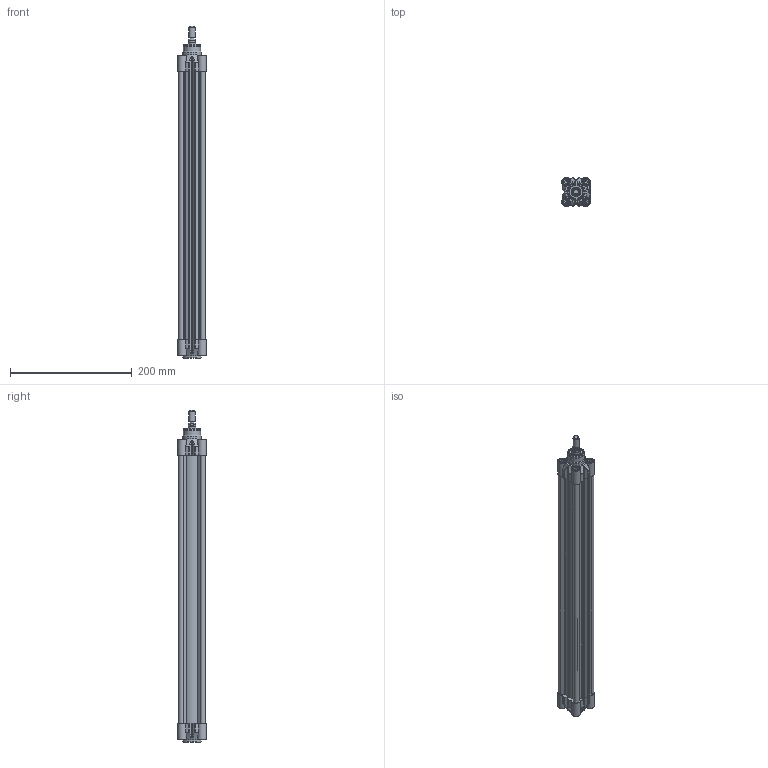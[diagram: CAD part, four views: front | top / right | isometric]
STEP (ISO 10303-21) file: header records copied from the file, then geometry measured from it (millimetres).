
FILE_DESCRIPTION(/* description */ ('CILINDRO D.E. MAGNETICO AMMORTIZZATO ISO 15552'),/* implementation_level */ '2;1');
FILE_NAME(/* name */ 'T:\Archivio Inventor\- 00 NUOVI STP PER SITO CON STELO CHE SI MUOVE\SERIE H - U\SERIE HDM\HDM032-TUBO NUOVO\HDM032.400.GS.M.stp',/* time_stamp */ '2018-07-25T14:28:43+02:00',/* author */ ('carlo.corazza'),/* organization */ (''),/* preprocessor_version */ 'ST-DEVELOPER v16.5',/* originating_system */ 'Autodesk Inventor 2017',/* authorisation */ '');
FILE_SCHEMA (('AUTOMOTIVE_DESIGN { 1 0 10303 214 3 1 1 }'));
Length unit declared in the file: millimetre
Products named in the file (5): HDM032.400.GS.M; TP; STELO-400; TA; CORPO-400
Assembly tree (4 placements, depth 2):
  HDM032.400.GS.M
    TP
    STELO-400
    TA
    CORPO-400
Bounding box: 47 x 47 x 546 mm (x, y, z)
Volume: 370228.3 mm3; surface area: 268841.5 mm2
Topology: 4 solids, 18 shells, 969 faces, 2356 edges, 1494 vertices
Faces by surface type: plane 330, cylinder 260, bspline 190, cone 86, torus 83, sphere 20
Full cylindrical faces by diameter (mm): 2 x2, 2.1 x2, 4 x2, 4.5 x2, 4.917 x8, 6 x8, 6.2 x8, 6.3 x4, 7 x2, 7.8 x4, 7.9 x3, 8 x4, 8.566 x2, 10 x9, 10.3 x8, 11.6 x1, 12 x1, 12.8 x1, 12.847 x1, 16 x1, 17 x2, 22 x3, 28 x1, 30 x2, 32 x1
Entity records: 31186 total; most frequent: CARTESIAN_POINT 9171, ORIENTED_EDGE 4162, DIRECTION 4048, EDGE_CURVE 2081, AXIS2_PLACEMENT_3D 1569, VERTEX_POINT 1436, EDGE_LOOP 1302, FACE_OUTER_BOUND 969
